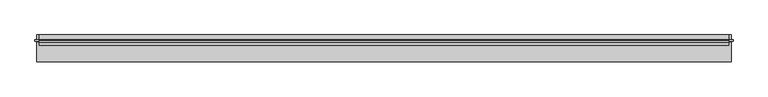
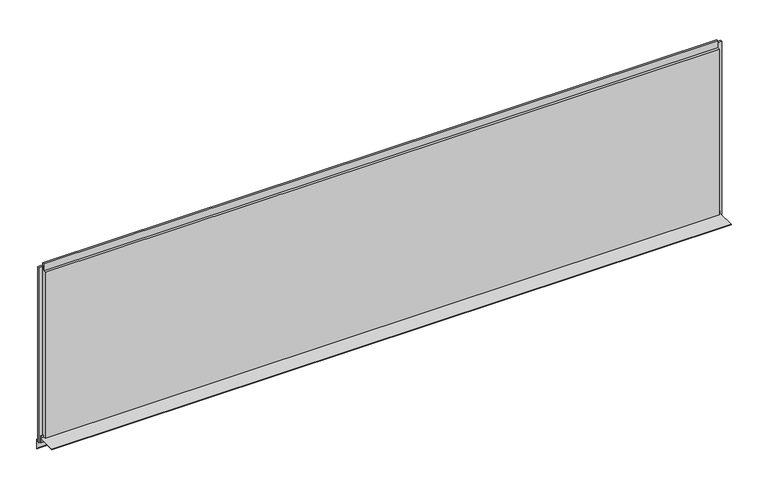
"""IFC4 building model written with IfcOpenShell, lengths in millimetres: plate geometry, Trimo_Qbiss Screen_Normal Panel-HORIZONTAL : HR - B."""

from ifc_helpers import new_model, si_unit, frame, origin, place, context, project, spatial, polyline, outline, extrude, source, transform, mapped, element, save


def plate_d173a851(model_context):
    return source(origin(), model_context, "Body", "SweptSolid", [
        extrude(outline(polyline([(66.7, 14.0835797), (67.5, 14.0835797), (67.5, -23.0), (100.0, -25.8433816), (100.0, -76.0), (87.1509533, -63.1509533), (87.7166388, -62.5852679), (99.2, -74.0686292), (99.2, -26.5764465), (66.7, -23.7330649), (66.7, 1.0), (-32.5, 1.0), (-32.5, 1.8), (66.7, 1.8), (66.7, 14.0835797)])), frame((-1710.0, 0.0, 0.0), z_axis=(1.0, 0.0, 0.0), x_axis=(0.0, 1.0, 0.0)), (0.0, 0.0, 1.0), 3420.0),
        extrude(outline(polyline([(-1700.5, 76.5978162), (-1700.5, 67.8978162), (-1719.5, 67.8978162), (-1719.5, 76.5978162), (-1700.5, 76.5978162)])), frame((0.0, 0.0, -20.0), z_axis=(0.0, 0.0, 1.0), x_axis=(1.0, 0.0, 0.0)), (0.0, 0.0, 1.0), 931.5),
        extrude(outline(polyline([(1700.5, 67.8978162), (1700.5, 76.5978162), (1719.5, 76.5978162), (1719.5, 67.8978162), (1700.5, 67.8978162)])), frame((0.0, 0.0, -20.0), z_axis=(0.0, 0.0, 1.0), x_axis=(1.0, 0.0, 0.0)), (0.0, 0.0, 1.0), 931.5),
        extrude(outline(polyline([(1697.5, 76.0), (1697.5, 71.0), (-1697.5, 71.0), (-1697.5, 76.0), (1697.5, 76.0)])), frame((0.0, 0.0, 890.5), z_axis=(0.0, 0.0, 1.0), x_axis=(1.0, 0.0, 0.0)), (0.0, 0.0, 1.0), 21.0),
        extrude(outline(polyline([(71.0, 889.5), (100.0, 889.5), (100.0, 0.0), (72.0, 0.0), (72.0, 15.5), (62.0, 15.5), (62.0, 7.0), (50.0, 7.0), (50.0, 889.5), (63.0, 889.5), (63.0, 927.0), (71.0, 927.0), (71.0, 889.5)])), frame((-1697.5, 0.0, 0.0), z_axis=(1.0, 0.0, 0.0), x_axis=(0.0, 1.0, 0.0)), (0.0, 0.0, 1.0), 3395.0),
    ])


if __name__ == "__main__":
    model = new_model("IFC4")
    model_context = context("Model", 3, world=origin())
    ifc_project = project(units=[si_unit("LENGTHUNIT", "METRE", prefix="MILLI")], contexts=[model_context])
    site = spatial("IfcSite", under=ifc_project)
    building = spatial("IfcBuilding", under=site)
    placement = place(None, origin())
    plate_shape = plate_d173a851(model_context)
    element("IfcPlate", 1, ObjectType="Trimo_Qbiss Screen_Normal Panel-HORIZONTAL : HR - B", at=placement, inside=building, context=model_context, shape_type="MappedRepresentation", body=[
        mapped(plate_shape, transform((0.0, 0.0, 0.0), x_axis=(1.0, 0.0, 0.0), y_axis=(0.0, 1.0, 0.0), z_axis=(0.0, 0.0, 1.0))),
    ])
    save(model, "model.ifc")
